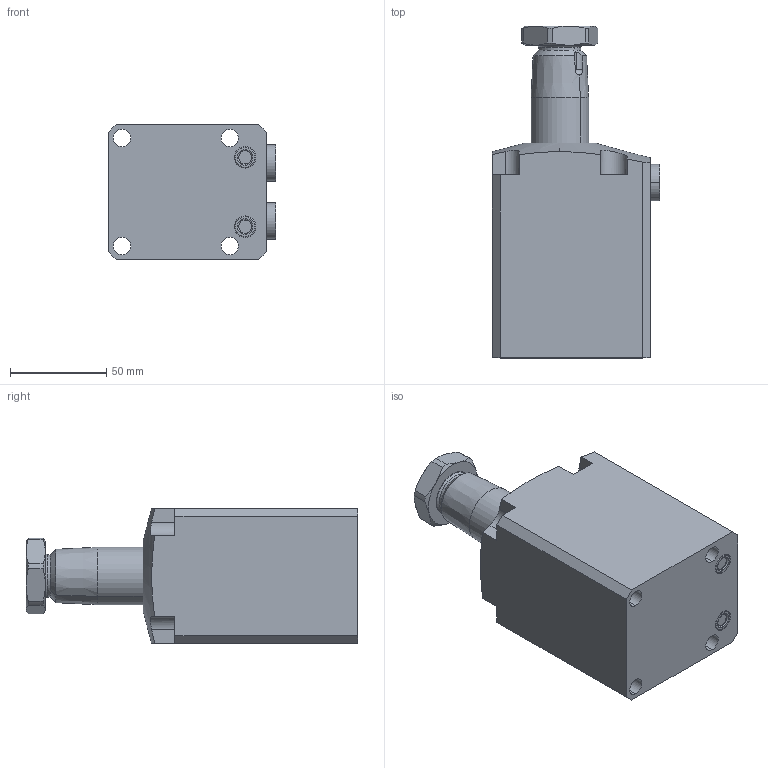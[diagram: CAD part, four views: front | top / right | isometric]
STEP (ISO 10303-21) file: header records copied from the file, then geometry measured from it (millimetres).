
FILE_DESCRIPTION(/* description */ (''),/* implementation_level */ '2;1');
FILE_NAME(/* name */ 'BRC10-LN45.stp',/* time_stamp */ '2025-01-05T09:17:01+08:00',/* author */ (''),/* organization */ (''),/* preprocessor_version */ 'ST-DEVELOPER v16.7',/* originating_system */ 'SIEMENS PLM Software NX 12.0',/* authorisation */ '');
FILE_SCHEMA (('AUTOMOTIVE_DESIGN { 1 0 10303 214 3 1 1 1 }'));
Length unit declared in the file: millimetre
Products named in the file (5): BRC10-LN45-03; BRC10-LN45-04; BRC10-LN45-02; BRC10-LN45-01; BRC10-LN45_stp
Assembly tree (5 placements, depth 2):
  BRC10-LN45_stp
    BRC10-LN45-01
    BRC10-LN45-02
    BRC10-LN45-04  x2
    BRC10-LN45-03
Bounding box: 86.8 x 172.3 x 70 mm (x, y, z)
Volume: 616889 mm3; surface area: 70002.8 mm2
Topology: 7 solids, 7 shells, 176 faces, 401 edges, 248 vertices
Faces by surface type: plane 68, cylinder 57, cone 34, torus 16, sphere 1
Full cylindrical faces by diameter (mm): 13 x2
Entity records: 4660 total; most frequent: CARTESIAN_POINT 957, DIRECTION 778, ORIENTED_EDGE 712, EDGE_CURVE 356, AXIS2_PLACEMENT_3D 313, VERTEX_POINT 222, EDGE_LOOP 180, ADVANCED_FACE 156
